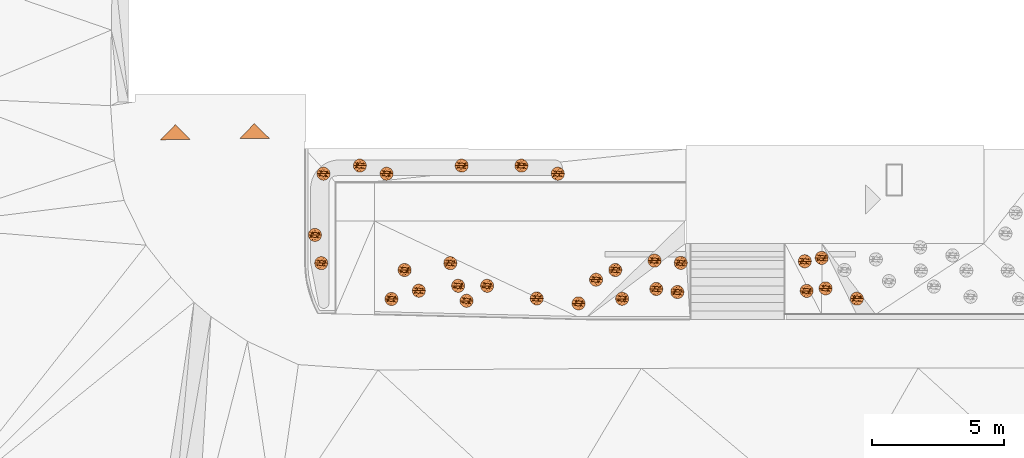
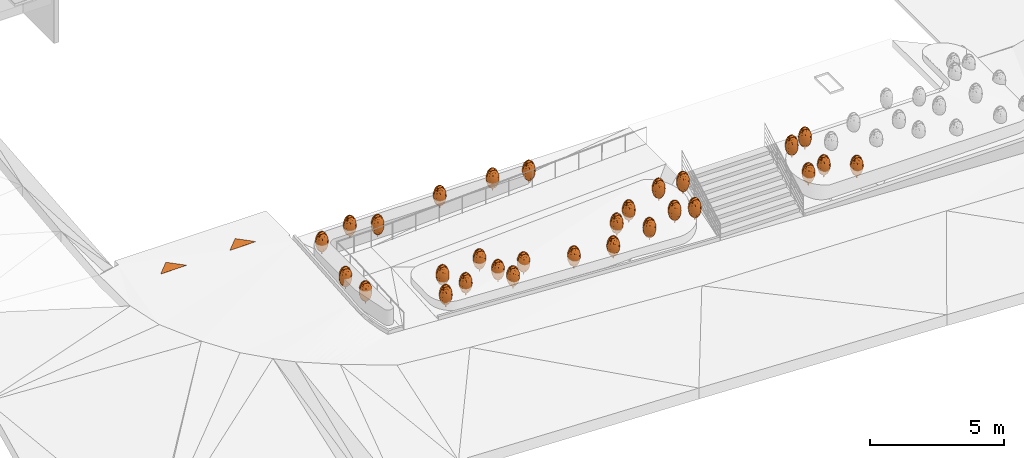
# One storey, part 21 of 23: 31 proxies.
"""IFC2X3 building model written with IfcOpenShell, lengths in metres."""

from ifc_helpers import new_model, entity, si_unit, converted_unit, direction, frame, origin, place, context, subcontext, project, spatial, polyline, outline, extrude, faceted_brep, source, transform, mapped, material, type_object, type_shapes, element, save


model = new_model("IFC2X3")

# Units and contexts
model_context = context("Model", 3, precision=1e-05, world=origin(), true_north=direction((0.7716245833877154, 0.6360782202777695)))
body_context = subcontext(model_context, "Body", "Model", "MODEL_VIEW")
ifc_project = project(units=[si_unit("LENGTHUNIT", "METRE"), converted_unit("PLANEANGLEUNIT", "DEGREE", entity("IfcPlaneAngleMeasure", 0.017453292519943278), si_unit("PLANEANGLEUNIT", "RADIAN"), dimensions=[0, 0, 0, 0, 0, 0, 0]), si_unit("AREAUNIT", "SQUARE_METRE")], contexts=[model_context])

# Site, building, storey
site_placement = place(None, origin())
site = spatial("IfcSite", under=ifc_project, at=site_placement, Name="Default", CompositionType="ELEMENT")
building_placement = place(site_placement, origin())
building = spatial("IfcBuilding", under=site, at=building_placement, Name="<Building Name>", CompositionType="ELEMENT")
storey_placement = place(building_placement, origin())
storey = spatial("IfcBuildingStorey", under=building, at=storey_placement, Name="00 - HAV", CompositionType="ELEMENT", Elevation=0.0)

# Proxies
ifc_material_1 = material(Name="Entrépil")
building_element_proxy_type_1 = type_object("IfcBuildingElementProxyType", Name="011_Entrépil_3D:Hovedentré", PredefinedType="NOTDEFINED", material=ifc_material_1)
shared_shape_1 = source(origin(), body_context, "Body", "SweptSolid", [
    extrude(outline(polyline([(-0.2666666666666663, -0.2666666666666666), (0.5333333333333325, -0.2666666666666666), (-0.2666666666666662, 0.5333333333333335), (-0.2666666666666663, -0.2666666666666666)])), frame((0.0, -0.377123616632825, 0.0), z_axis=(0.0, 0.0, 1.0), x_axis=(-0.7071067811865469, -0.7071067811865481, 0.0)), (0.0, 0.0, 1.0), 0.003),
])
type_shapes(building_element_proxy_type_1, [shared_shape_1])
for number, where, z_axis, x_axis, name in (
    (1, (224.8546036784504, 54.102430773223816, 33.2), (0.0, 0.0, 1.0), (0.999903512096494, 0.013891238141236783, 0.0), "011_Entrépil_3D:Hovedentré"),
    (2, (227.85431421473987, 54.144104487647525, 33.2), (0.0, 0.0, 1.0), (0.999903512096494, 0.013891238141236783, 0.0), "011_Entrépil_3D:Hovedentré"),
):
    element("IfcBuildingElementProxy", number, at=place(storey_placement, frame(where, z_axis=z_axis, x_axis=x_axis)), inside=storey, type_object=building_element_proxy_type_1, material=ifc_material_1, Name=name, ObjectType="011_Entrépil_3D:Hovedentré", context=body_context, shape_type="MappedRepresentation", body=[
        mapped(shared_shape_1, transform((0.0, 0.0, 0.0), scale=1.0)),
    ])
ifc_material_2 = material(Name="<Unnamed>")
building_element_proxy_type_2 = type_object("IfcBuildingElementProxyType", Name="812_Shrub_Solitary:812xxx Amelanchier laevis (Allegheny serviceberry) (Multi-stem), 4m 2", PredefinedType="NOTDEFINED", material=ifc_material_2)
shared_shape_2 = source(origin(), body_context, "Body", "Brep", [
    faceted_brep([(0.01250000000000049, -0.02165063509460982, 0.10249999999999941), (0.017677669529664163, -0.0176776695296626, 0.10249999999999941), (0.021650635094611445, -0.01249999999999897, 0.10249999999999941), (0.0241481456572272, -0.006470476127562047, 0.10249999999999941), (0.025000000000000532, 0.0, 0.10249999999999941), (0.024148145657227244, 0.006470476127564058, 0.10249999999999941), (0.021650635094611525, 0.012500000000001, 0.10249999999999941), (0.017677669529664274, 0.017677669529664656, 0.10249999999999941), (0.012500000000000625, 0.02165063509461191, 0.10249999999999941), (0.0064704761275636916, 0.02414814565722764, 0.10249999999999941), (0.0, 0.025000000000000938, 0.10249999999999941), (-0.006470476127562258, 0.02414814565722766, 0.10249999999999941), (-0.012499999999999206, 0.021650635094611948, 0.10249999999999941), (-0.017677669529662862, 0.017677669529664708, 0.10249999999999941), (-0.02165063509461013, 0.012500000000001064, 0.10249999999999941), (-0.024148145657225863, 0.006470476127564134, 0.10249999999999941), (-0.024999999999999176, 0.0, 0.10249999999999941), (-0.024148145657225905, -0.006470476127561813, 0.10249999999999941), (-0.021650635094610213, -0.012499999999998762, 0.10249999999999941), (-0.01767766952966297, -0.017677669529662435, 0.10249999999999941), (-0.012499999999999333, -0.0216506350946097, 0.10249999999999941), (-0.006470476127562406, -0.024148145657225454, 0.10249999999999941), (0.0, -0.02499999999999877, 0.10249999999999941), (0.0064704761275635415, -0.024148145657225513, 0.10249999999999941), (0.0, 0.025000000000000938, 0.0), (0.0064704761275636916, 0.02414814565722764, 0.0), (0.012500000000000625, 0.02165063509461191, 0.0), (0.017677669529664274, 0.017677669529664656, 0.0), (0.021650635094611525, 0.012500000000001, 0.0), (0.024148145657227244, 0.006470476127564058, 0.0), (0.025000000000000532, 0.0, 0.0), (0.0241481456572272, -0.006470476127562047, 0.0), (0.021650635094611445, -0.01249999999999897, 0.0), (0.017677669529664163, -0.0176776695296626, 0.0), (0.01250000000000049, -0.02165063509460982, 0.0), (0.0064704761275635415, -0.024148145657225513, 0.0), (0.0, -0.02499999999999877, 0.0), (-0.006470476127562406, -0.024148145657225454, 0.0), (-0.012499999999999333, -0.0216506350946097, 0.0), (-0.01767766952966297, -0.017677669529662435, 0.0), (-0.021650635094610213, -0.012499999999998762, 0.0), (-0.024148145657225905, -0.006470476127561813, 0.0), (-0.024999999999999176, 0.0, 0.0), (-0.024148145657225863, 0.006470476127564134, 0.0), (-0.02165063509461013, 0.012500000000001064, 0.0), (-0.017677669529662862, 0.017677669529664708, 0.0), (-0.012499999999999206, 0.021650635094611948, 0.0), (-0.006470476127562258, 0.02414814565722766, 0.0)], [[[0, 1, 2, 3, 4, 5, 6, 7, 8, 9, 10, 11, 12, 13, 14, 15, 16, 17, 18, 19, 20, 21, 22, 23]], [[24, 25, 26, 27, 28, 29, 30, 31, 32, 33, 34, 35, 36, 37, 38, 39, 40, 41, 42, 43, 44, 45, 46, 47]], [[17, 41, 40, 18]], [[39, 19, 18, 40]], [[20, 38, 37, 21]], [[39, 38, 20, 19]], [[21, 37, 36, 22]], [[41, 17, 16, 42]], [[23, 35, 34, 0]], [[33, 1, 0, 34]], [[2, 32, 31, 3]], [[33, 32, 2, 1]], [[3, 31, 30, 4]], [[35, 23, 22, 36]], [[30, 29, 5, 4]], [[8, 26, 25, 9]], [[26, 8, 7, 27]], [[24, 10, 9, 25]], [[5, 29, 28, 6]], [[28, 27, 7, 6]], [[11, 47, 46, 12]], [[45, 13, 12, 46]], [[14, 44, 43, 15]], [[45, 44, 14, 13]], [[15, 43, 42, 16]], [[47, 11, 10, 24]]]),
    faceted_brep([(0.23850803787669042, 0.06991061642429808, 0.5985139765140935), (0.24620193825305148, 0.0, 0.4718583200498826), (0.22939334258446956, 0.07726705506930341, 0.4374676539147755), (0.20614438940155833, 0.12376125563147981, 0.42676055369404), (0.21249588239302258, 0.13170231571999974, 0.550000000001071), (0.1606969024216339, 0.0, 0.20528000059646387), (0.20815678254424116, 0.06833092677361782, 0.3332390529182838), (0.1818434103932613, 0.0, 0.2411912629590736), (0.22955402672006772, 0.0, 0.37176410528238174), (0.21650635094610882, 0.0, 0.32500000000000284), (0.2394973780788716, 0.0, 0.42093854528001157), (-0.04646607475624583, 0.22683739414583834, 0.7196751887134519), (-0.09452961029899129, 0.20157258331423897, 0.7546992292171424), (-0.07216705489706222, 0.17646586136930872, 0.8410868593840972), (0.08550503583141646, 0.0, 0.12713832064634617), (0.08891084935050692, 0.08663704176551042, 0.15940048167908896), (0.11951962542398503, 0.12413953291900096, 0.2239840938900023), (0.20053079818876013, 0.0, 0.28127863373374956), (0.0429519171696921, 0.12823742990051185, 0.17152760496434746), (0.028420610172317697, 0.1873149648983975, 0.2563992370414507), (0.07825571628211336, 0.15560596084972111, 0.22718803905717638), (0.0, 0.0, 0.10000000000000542), (-0.004372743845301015, 0.08574662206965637, 0.12737013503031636), (0.02902322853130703, 0.0, 0.10304273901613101), (0.057653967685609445, 0.0, 0.11212980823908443), (-0.18184341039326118, 0.0, 0.8588087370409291), (-0.1730739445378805, 0.10013384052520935, 0.820111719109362), (-0.22008812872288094, 0.08946742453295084, 0.6900857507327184), (0.053638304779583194, 0.067106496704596, 0.12740365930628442), (-0.17866462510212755, 0.14938268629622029, 0.3863705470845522), (-0.17300950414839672, 0.09642195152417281, 0.275415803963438), (-0.20799024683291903, 0.10007060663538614, 0.37710692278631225), (0.1818434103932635, 0.0, 0.8588087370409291), (0.1915393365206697, 0.11790696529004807, 0.7464444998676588), (0.1707596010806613, 0.06946813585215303, 0.8539567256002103), (0.14896670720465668, 0.11208042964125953, 0.8498331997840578), (0.15051536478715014, 0.17622808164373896, 0.7187473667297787), (0.11219979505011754, 0.0, 0.9521346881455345), (0.1203563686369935, 0.07887752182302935, 0.9179786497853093), (0.08550503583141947, 0.0, 0.9728616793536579), (0.15820107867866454, 0.19181689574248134, 0.503106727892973), (0.17120329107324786, 0.07276259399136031, 0.24936746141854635), (0.14996737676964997, 0.11073733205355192, 0.2501660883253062), (0.13541917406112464, 0.16776818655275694, 0.32220587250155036), (0.170606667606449, 0.13531021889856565, 0.328925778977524), (-0.11334119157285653, 0.15094946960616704, 0.25495352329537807), (-0.14499102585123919, 0.11835688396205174, 0.25167069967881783), (-0.13945550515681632, 0.17086120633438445, 0.3380993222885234), (0.24957703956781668, 0.0, 0.523834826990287), (0.24957703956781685, 0.0, 0.5761651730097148), (0.11219979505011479, 0.0, 0.14786531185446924), (0.24620193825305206, 0.0, 0.6281416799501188), (0.23949737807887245, 0.0, 0.6790614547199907), (-0.13737724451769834, 0.0, 0.17403048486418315), (0.22955402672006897, 0.0, 0.7282358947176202), (0.22120629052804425, 0.06932199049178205, 0.7184922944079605), (-0.20053079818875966, 0.0, 0.8187213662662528), (-0.21650635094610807, 0.0, 0.7749999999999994), (0.21650635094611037, 0.0, 0.7749999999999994), (-0.05765396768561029, 0.0, 0.9878701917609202), (-0.0516096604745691, 0.08560533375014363, 0.9624639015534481), (-0.08578183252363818, 0.1210822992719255, 0.9121560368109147), (0.20053079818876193, 0.0, 0.8187213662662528), (-0.24957703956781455, 0.0, 0.5761651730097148), (-0.23797372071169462, 0.07584140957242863, 0.530564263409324), (-0.24957703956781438, 0.0, 0.523834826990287), (0.13737724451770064, 0.0, 0.17403048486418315), (0.13737724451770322, 0.0, 0.9259695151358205), (-0.026479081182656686, 0.17855758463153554, 0.8613326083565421), (0.02483314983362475, 0.2186065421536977, 0.7636964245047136), (-0.05739184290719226, 0.24332319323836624, 0.5500000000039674), (-0.0033896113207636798, 0.244481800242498, 0.6438274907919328), (0.08896846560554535, 0.07373557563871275, 0.9490469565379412), (0.05765396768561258, 0.0, 0.9878701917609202), (-0.20416814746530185, 0.14427531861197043, 0.5500000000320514), (2.568366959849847e-09, 0.10077345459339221, 0.9618213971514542), (0.0, 0.0, 1.0), (0.02902322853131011, 0.0, 0.9969572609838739), (0.16069690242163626, 0.0, 0.8947199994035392), (-0.05765396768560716, 0.0, 0.11212980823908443), (-0.08550503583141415, 0.0, 0.12713832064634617), (-0.08578183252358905, 0.12108229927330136, 0.18784396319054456), (-0.08550503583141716, 0.0, 0.9728616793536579), (-0.12066945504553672, 0.08428787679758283, 0.9137355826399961), (-0.11219979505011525, 0.0, 0.9521346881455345), (-0.051609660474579, 0.08560533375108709, 0.1375360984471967), (-0.20053079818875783, 0.0, 0.28127863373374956), (-0.2308466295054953, 0.058309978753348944, 0.41280055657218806), (-0.023374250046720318, 0.13205871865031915, 0.17022926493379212), (-0.181843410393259, 0.0, 0.2411912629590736), (-0.1606969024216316, 0.0, 0.20528000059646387), (0.08658519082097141, 0.18332310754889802, 0.8132904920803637), (0.026110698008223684, 0.15717904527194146, 0.8967651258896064), (0.08246489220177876, 0.13964564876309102, 0.8924668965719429), (-0.12066945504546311, 0.0842878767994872, 0.18626441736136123), (0.05095144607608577, 0.09001895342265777, 0.9596751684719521), (-0.2165063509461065, 0.0, 0.32500000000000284), (-0.23781016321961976, 0.052988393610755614, 0.6508410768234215), (-0.22955402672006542, 0.0, 0.37176410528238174), (-0.23949737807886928, 0.0, 0.42093854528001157), (-0.24620193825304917, 0.0, 0.4718583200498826), (-0.08031082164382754, 0.21357520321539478, 0.3661195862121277), (-0.012349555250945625, 0.23447128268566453, 0.39546493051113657), (0.20939264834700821, 0.12324851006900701, 0.6559483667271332), (-0.14472249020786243, 0.1183987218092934, 0.848697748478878), (-0.13737724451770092, 0.0, 0.9259695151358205), (0.11730355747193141, 0.14275963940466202, 0.8531253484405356), (0.1840833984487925, 0.1628436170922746, 0.6323931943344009), (-0.17594791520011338, 0.1759340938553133, 0.5062957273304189), (-0.18270938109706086, 0.15312253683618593, 0.6855481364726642), (-0.14118269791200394, 0.20615647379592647, 0.5352714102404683), (-0.02902322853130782, 0.0, 0.9969572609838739), (-0.14808527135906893, 0.1909384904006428, 0.4345577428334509), (-0.11094403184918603, 0.2171588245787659, 0.4508615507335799), (-0.02647908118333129, 0.17855758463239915, 0.23866739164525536), (-0.23949737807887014, 0.0, 0.6790614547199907), (-0.24620193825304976, 0.0, 0.6281416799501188), (-0.22955402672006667, 0.0, 0.7282358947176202), (-0.16069690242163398, 0.0, 0.8947199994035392), (-0.029023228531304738, 0.0, 0.10304273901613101), (-0.13945550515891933, 0.17086120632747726, 0.7619006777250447), (-0.11219979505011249, 0.0, 0.14786531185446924), (-0.07181989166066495, 0.17685086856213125, 0.2593923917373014), (-0.11334119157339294, 0.1509494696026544, 0.845046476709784), (0.1109116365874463, 0.22078270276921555, 0.481372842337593), (0.12522531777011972, 0.2139791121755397, 0.6078122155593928), (0.09324044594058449, 0.21198940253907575, 0.7194938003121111), (0.05067237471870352, 0.23586133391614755, 0.66805779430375), (0.061434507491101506, 0.23474314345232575, 0.44167860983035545), (0.052992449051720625, 0.21379342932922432, 0.3371415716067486), (-0.10157212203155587, 0.22830956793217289, 0.5636900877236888), (-0.12347067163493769, 0.20953070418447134, 0.6542117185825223), (0.09763635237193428, 0.20402573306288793, 0.35831358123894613), (-0.01035446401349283, 0.24963845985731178, 0.5345761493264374), (0.03671083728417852, 0.24727484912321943, 0.554917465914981), (0.0836342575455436, 0.23531808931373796, 0.5705789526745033), (-0.23850803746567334, -0.06991061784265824, 0.5985139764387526), (-0.22939334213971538, -0.07726705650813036, 0.43746765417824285), (-0.20614438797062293, -0.12376125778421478, 0.4267605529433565), (-0.212495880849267, -0.1317023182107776, 0.5500000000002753), (-0.20815678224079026, -0.06833092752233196, 0.33323905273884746), (0.04646608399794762, -0.22683739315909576, 0.7196751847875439), (0.0945296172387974, -0.20157258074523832, 0.7546992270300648), (0.07216706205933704, -0.17646585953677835, 0.8410868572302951), (-0.08891084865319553, -0.08663704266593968, 0.1594004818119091), (-0.11951962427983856, -0.12413953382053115, 0.22398409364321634), (-0.04295191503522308, -0.12823743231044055, 0.17152760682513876), (-0.028420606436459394, -0.1873149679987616, 0.25639924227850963), (-0.07825571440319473, -0.1556059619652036, 0.22718803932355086), (0.004372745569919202, -0.08574662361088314, 0.12737013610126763), (0.1730739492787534, -0.10013384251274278, 0.8201117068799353), (0.22008813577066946, -0.08946741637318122, 0.690085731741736), (-0.05363830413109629, -0.06710649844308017, 0.12740365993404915), (0.17866463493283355, -0.14938268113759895, 0.3863705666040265), (0.17300950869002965, -0.09642195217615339, 0.27541581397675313), (0.207990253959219, -0.10007060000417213, 0.3771069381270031), (-0.19153933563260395, -0.1179069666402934, 0.746444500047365), (-0.1707596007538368, -0.06946813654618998, 0.853956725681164), (-0.14896670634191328, -0.11208043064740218, 0.8498331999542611), (-0.15051536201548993, -0.17622808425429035, 0.7187473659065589), (-0.12035636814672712, -0.07887752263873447, 0.9179786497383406), (-0.15820107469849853, -0.19181689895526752, 0.5031067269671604), (-0.1712032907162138, -0.07276259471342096, 0.2493674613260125), (-0.1499673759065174, -0.11073733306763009, 0.2501660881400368), (-0.13541917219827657, -0.16776818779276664, 0.32220587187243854), (-0.1706066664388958, -0.13531022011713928, 0.3289257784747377), (0.11334119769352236, -0.1509494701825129, 0.2549535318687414), (0.14499103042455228, -0.11835688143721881, 0.2516707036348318), (0.13945551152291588, -0.17086120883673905, 0.3380993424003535), (-0.22120629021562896, -0.06932199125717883, 0.7184922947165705), (0.05160966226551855, -0.08560533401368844, 0.9624639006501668), (0.08578183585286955, -0.12108229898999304, 0.9121560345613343), (0.23797372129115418, -0.07584140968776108, 0.5305642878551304), (0.026479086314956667, -0.17855758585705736, 0.8613326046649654), (-0.024833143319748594, -0.21860654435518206, 0.7636964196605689), (0.05739185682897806, -0.2433231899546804, 0.5499999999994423), (0.0033896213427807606, -0.24448180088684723, 0.643827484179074), (-0.08896846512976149, -0.07373557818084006, 0.9490469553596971), (0.20416816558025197, -0.144275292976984, 0.5499999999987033), (0.0, -0.1007734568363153, 0.9618213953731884), (0.08578183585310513, -0.12108229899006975, 0.18784396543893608), (0.12066945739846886, -0.08428787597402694, 0.9137355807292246), (0.05160966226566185, -0.08560533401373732, 0.13753609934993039), (0.23084663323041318, -0.05830997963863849, 0.4128005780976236), (0.023374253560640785, -0.1320587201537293, 0.17022926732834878), (-0.0865851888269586, -0.183323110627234, 0.8132904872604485), (-0.0261106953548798, -0.15717904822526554, 0.8967651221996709), (-0.08246489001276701, -0.13964565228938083, 0.8924668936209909), (0.12066945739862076, -0.08428787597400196, 0.1862644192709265), (-0.050951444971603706, -0.09001895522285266, 0.9596751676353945), (0.23781016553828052, -0.05298839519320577, 0.6508410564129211), (0.08031082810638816, -0.2135752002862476, 0.3661195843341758), (0.012349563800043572, -0.2344712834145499, 0.3954649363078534), (-0.20939264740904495, -0.12324851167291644, 0.6559483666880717), (0.1447224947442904, -0.11839871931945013, 0.8486977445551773), (-0.1173035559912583, -0.14275964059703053, 0.8531253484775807), (-0.18408339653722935, -0.16284361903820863, 0.6323931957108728), (0.17594794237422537, -0.1759340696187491, 0.5062957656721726), (0.18270939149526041, -0.1531225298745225, 0.6855481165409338), (0.1411827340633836, -0.2061564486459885, 0.5352713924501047), (0.14808532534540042, -0.19093844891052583, 0.4345577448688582), (0.11094408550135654, -0.2171587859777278, 0.4508614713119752), (0.026479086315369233, -0.17855758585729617, 0.23866739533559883), (0.13945551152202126, -0.17086120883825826, 0.7619006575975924), (0.071819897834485, -0.17685086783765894, 0.25939239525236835), (0.11334119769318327, -0.15094947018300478, 0.8450464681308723), (-0.11091162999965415, -0.22078270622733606, 0.4813728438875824), (-0.12522531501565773, -0.21397911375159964, 0.6078122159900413), (-0.09324044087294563, -0.21198940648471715, 0.7194937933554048), (-0.05067236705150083, -0.2358613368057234, 0.6680577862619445), (-0.06143449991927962, -0.2347431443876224, 0.4416786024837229), (-0.05299244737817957, -0.21379342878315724, 0.3371415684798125), (0.10157214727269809, -0.2283095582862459, 0.5636900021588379), (0.1234706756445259, -0.2095307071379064, 0.6542116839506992), (-0.09763634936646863, -0.20402573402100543, 0.35831357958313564), (0.010354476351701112, -0.24963845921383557, 0.5345761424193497), (-0.03671082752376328, -0.24727485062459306, 0.5549174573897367), (-0.08363425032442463, -0.23531809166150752, 0.5705789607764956)], [[[0, 1, 2]], [[2, 3, 4]], [[5, 6, 7]], [[2, 8, 9]], [[2, 1, 10]], [[11, 12, 13]], [[14, 15, 16]], [[8, 2, 10]], [[6, 17, 7]], [[18, 19, 20]], [[21, 22, 23]], [[15, 14, 24]], [[25, 26, 27]], [[28, 22, 18]], [[6, 2, 9]], [[29, 30, 31]], [[32, 33, 34]], [[35, 33, 36]], [[37, 38, 39]], [[4, 3, 40]], [[5, 41, 6]], [[42, 43, 44]], [[45, 46, 47]], [[35, 38, 37]], [[48, 1, 0]], [[0, 49, 48]], [[41, 42, 44]], [[16, 42, 50]], [[50, 14, 16]], [[51, 0, 52]], [[30, 46, 53]], [[0, 54, 52]], [[54, 0, 55]], [[56, 27, 57]], [[54, 55, 58]], [[59, 60, 61]], [[58, 55, 62]], [[62, 55, 32]], [[63, 64, 65]], [[66, 41, 5]], [[24, 23, 28]], [[34, 35, 67]], [[49, 0, 51]], [[11, 68, 69]], [[37, 67, 35]], [[70, 11, 71]], [[72, 73, 39]], [[64, 74, 31]], [[75, 76, 77]], [[78, 34, 67]], [[79, 80, 81]], [[82, 83, 84]], [[81, 85, 79]], [[86, 87, 31]], [[64, 31, 87]], [[22, 85, 88]], [[89, 30, 90]], [[91, 92, 93]], [[32, 55, 33]], [[80, 94, 81]], [[75, 95, 92]], [[30, 89, 31]], [[96, 87, 86]], [[97, 64, 63]], [[27, 64, 97]], [[96, 98, 87]], [[87, 99, 64]], [[47, 30, 29]], [[99, 100, 64]], [[101, 70, 102]], [[15, 20, 16]], [[99, 87, 98]], [[30, 53, 90]], [[86, 31, 89]], [[103, 0, 4]], [[100, 65, 64]], [[83, 104, 84]], [[105, 84, 104]], [[38, 106, 93]], [[33, 107, 36]], [[83, 82, 61]], [[61, 82, 59]], [[108, 109, 110]], [[60, 59, 111]], [[26, 109, 27]], [[112, 110, 113]], [[102, 19, 114]], [[77, 95, 75]], [[115, 97, 116]], [[57, 97, 117]], [[75, 111, 76]], [[3, 2, 6]], [[0, 2, 4]], [[118, 26, 25]], [[64, 27, 74]], [[115, 117, 97]], [[27, 97, 57]], [[25, 27, 56]], [[44, 43, 40]], [[105, 26, 118]], [[116, 97, 63]], [[6, 9, 17]], [[68, 92, 69]], [[21, 119, 22]], [[109, 26, 120]], [[4, 107, 103]], [[94, 80, 121]], [[81, 45, 122]], [[77, 73, 95]], [[60, 68, 61]], [[66, 50, 42]], [[6, 41, 44]], [[32, 34, 78]], [[33, 35, 34]], [[85, 119, 79]], [[18, 22, 88]], [[61, 123, 83]], [[83, 123, 104]], [[121, 53, 46]], [[45, 81, 94]], [[72, 95, 73]], [[75, 92, 68]], [[28, 15, 24]], [[20, 15, 18]], [[106, 38, 35]], [[72, 38, 93]], [[6, 44, 3]], [[40, 3, 44]], [[40, 124, 125]], [[126, 106, 36]], [[111, 75, 60]], [[68, 60, 75]], [[88, 81, 114]], [[22, 119, 85]], [[95, 93, 92]], [[93, 106, 91]], [[127, 69, 126]], [[71, 69, 127]], [[125, 126, 36]], [[102, 128, 129]], [[130, 110, 131]], [[12, 120, 123]], [[18, 88, 19]], [[132, 16, 20]], [[81, 122, 114]], [[20, 19, 129]], [[71, 133, 70]], [[134, 135, 128]], [[12, 131, 120]], [[27, 109, 74]], [[131, 109, 120]], [[110, 130, 113]], [[13, 12, 123]], [[104, 120, 26]], [[123, 61, 13]], [[70, 130, 11]], [[131, 12, 11]], [[109, 131, 110]], [[61, 68, 13]], [[11, 13, 68]], [[46, 45, 94]], [[45, 47, 101]], [[112, 113, 47]], [[114, 101, 102]], [[45, 101, 122]], [[101, 114, 122]], [[38, 72, 39]], [[95, 72, 93]], [[36, 106, 35]], [[91, 106, 126]], [[126, 69, 91]], [[92, 91, 69]], [[33, 103, 107]], [[36, 107, 125]], [[120, 104, 123]], [[105, 104, 26]], [[46, 94, 121]], [[47, 46, 30]], [[42, 41, 66]], [[43, 16, 132]], [[16, 43, 42]], [[43, 132, 124]], [[40, 43, 124]], [[126, 125, 135]], [[128, 124, 132]], [[135, 125, 124]], [[129, 128, 132]], [[133, 128, 102]], [[20, 129, 132]], [[102, 129, 19]], [[128, 135, 124]], [[135, 134, 127]], [[31, 74, 29]], [[112, 108, 110]], [[11, 130, 131]], [[113, 70, 101]], [[70, 113, 130]], [[47, 113, 101]], [[47, 29, 112]], [[108, 29, 74]], [[29, 108, 112]], [[109, 108, 74]], [[4, 40, 107]], [[125, 107, 40]], [[22, 28, 23]], [[15, 28, 18]], [[81, 88, 85]], [[88, 114, 19]], [[33, 55, 103]], [[0, 103, 55]], [[135, 127, 126]], [[71, 127, 134]], [[71, 134, 133]], [[69, 71, 11]], [[128, 133, 134]], [[102, 70, 133]], [[136, 100, 137]], [[137, 138, 139]], [[90, 140, 89]], [[137, 98, 96]], [[137, 100, 99]], [[141, 142, 143]], [[80, 144, 145]], [[98, 137, 99]], [[140, 86, 89]], [[146, 147, 148]], [[21, 149, 119]], [[144, 80, 79]], [[32, 150, 151]], [[152, 149, 146]], [[140, 137, 96]], [[153, 154, 155]], [[25, 156, 157]], [[158, 156, 159]], [[84, 160, 82]], [[139, 138, 161]], [[90, 162, 140]], [[163, 164, 165]], [[166, 167, 168]], [[158, 160, 84]], [[65, 100, 136]], [[136, 63, 65]], [[162, 163, 165]], [[145, 163, 121]], [[121, 80, 145]], [[116, 136, 115]], [[154, 167, 66]], [[136, 117, 115]], [[117, 136, 169]], [[62, 151, 58]], [[117, 169, 57]], [[73, 170, 171]], [[57, 169, 56]], [[56, 169, 25]], [[49, 172, 48]], [[53, 162, 90]], [[79, 119, 152]], [[157, 158, 105]], [[63, 136, 116]], [[141, 173, 174]], [[84, 105, 158]], [[175, 141, 176]], [[177, 59, 82]], [[172, 178, 155]], [[179, 76, 111]], [[118, 157, 105]], [[24, 14, 180]], [[39, 181, 37]], [[180, 182, 24]], [[17, 183, 155]], [[172, 155, 183]], [[149, 182, 184]], [[7, 154, 5]], [[185, 186, 187]], [[25, 169, 156]], [[14, 188, 180]], [[179, 189, 186]], [[7, 155, 154]], [[9, 183, 17]], [[190, 172, 49]], [[151, 172, 190]], [[9, 8, 183]], [[183, 10, 172]], [[168, 154, 153]], [[10, 1, 172]], [[191, 175, 192]], [[144, 148, 145]], [[10, 183, 8]], [[154, 66, 5]], [[17, 155, 7]], [[193, 136, 139]], [[1, 48, 172]], [[181, 194, 37]], [[67, 37, 194]], [[160, 195, 187]], [[156, 196, 159]], [[181, 39, 171]], [[171, 39, 73]], [[197, 198, 199]], [[170, 73, 77]], [[150, 198, 151]], [[200, 199, 201]], [[192, 147, 202]], [[111, 189, 179]], [[190, 51, 52]], [[58, 190, 54]], [[179, 77, 76]], [[138, 137, 140]], [[136, 137, 139]], [[78, 150, 32]], [[172, 151, 178]], [[52, 54, 190]], [[151, 190, 58]], [[32, 151, 62]], [[165, 164, 161]], [[67, 150, 78]], [[51, 190, 49]], [[140, 96, 86]], [[173, 186, 174]], [[21, 23, 149]], [[198, 150, 203]], [[139, 196, 193]], [[188, 14, 50]], [[180, 166, 204]], [[111, 59, 189]], [[170, 173, 171]], [[53, 121, 163]], [[140, 162, 165]], [[25, 157, 118]], [[156, 158, 157]], [[182, 23, 24]], [[146, 149, 184]], [[171, 205, 181]], [[181, 205, 194]], [[50, 66, 167]], [[166, 180, 188]], [[177, 189, 59]], [[179, 186, 173]], [[152, 144, 79]], [[148, 144, 146]], [[195, 160, 158]], [[177, 160, 187]], [[140, 165, 138]], [[161, 138, 165]], [[161, 206, 207]], [[208, 195, 159]], [[77, 179, 170]], [[173, 170, 179]], [[184, 180, 202]], [[149, 23, 182]], [[189, 187, 186]], [[187, 195, 185]], [[209, 174, 208]], [[176, 174, 209]], [[207, 208, 159]], [[192, 210, 211]], [[212, 199, 213]], [[142, 203, 205]], [[146, 184, 147]], [[214, 145, 148]], [[180, 204, 202]], [[148, 147, 211]], [[176, 215, 175]], [[216, 217, 210]], [[142, 213, 203]], [[151, 198, 178]], [[213, 198, 203]], [[199, 212, 201]], [[143, 142, 205]], [[194, 203, 150]], [[205, 171, 143]], [[175, 212, 141]], [[213, 142, 141]], [[198, 213, 199]], [[171, 173, 143]], [[141, 143, 173]], [[167, 166, 188]], [[166, 168, 191]], [[200, 201, 168]], [[202, 191, 192]], [[166, 191, 204]], [[191, 202, 204]], [[160, 177, 82]], [[189, 177, 187]], [[159, 195, 158]], [[185, 195, 208]], [[208, 174, 185]], [[186, 185, 174]], [[156, 193, 196]], [[159, 196, 207]], [[203, 194, 205]], [[67, 194, 150]], [[167, 188, 50]], [[168, 167, 154]], [[163, 162, 53]], [[164, 145, 214]], [[145, 164, 163]], [[164, 214, 206]], [[161, 164, 206]], [[208, 207, 217]], [[210, 206, 214]], [[217, 207, 206]], [[211, 210, 214]], [[215, 210, 192]], [[148, 211, 214]], [[192, 211, 147]], [[210, 217, 206]], [[217, 216, 209]], [[155, 178, 153]], [[200, 197, 199]], [[141, 212, 213]], [[201, 175, 191]], [[175, 201, 212]], [[168, 201, 191]], [[168, 153, 200]], [[197, 153, 178]], [[153, 197, 200]], [[198, 197, 178]], [[139, 161, 196]], [[207, 196, 161]], [[149, 152, 119]], [[144, 152, 146]], [[180, 184, 182]], [[184, 202, 147]], [[156, 169, 193]], [[136, 193, 169]], [[217, 209, 208]], [[176, 209, 216]], [[176, 216, 215]], [[174, 176, 141]], [[210, 215, 216]], [[192, 175, 215]]]),
])
type_shapes(building_element_proxy_type_2, [shared_shape_2])
for number, where, name in (
    (3, (236.69544378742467, 47.986279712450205, 32.22795928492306), "812_Shrub_Solitary:812xxx Amelanchier laevis (Allegheny serviceberry) (Multi-stem), 4m 2"),
    (4, (235.59544378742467, 47.986279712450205, 32.265717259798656), "812_Shrub_Solitary:812xxx Amelanchier laevis (Allegheny serviceberry) (Multi-stem), 4m 2"),
    (5, (241.56294378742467, 48.58627971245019, 32.524700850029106), "812_Shrub_Solitary:812xxx Amelanchier laevis (Allegheny serviceberry) (Multi-stem), 4m 2"),
    (6, (240.16574993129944, 47.31818112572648, 32.15104951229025), "812_Shrub_Solitary:812xxx Amelanchier laevis (Allegheny serviceberry) (Multi-stem), 4m 2"),
    (7, (248.82831554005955, 47.793162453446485, 32.14742755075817), "812_Shrub_Solitary:812xxx Amelanchier laevis (Allegheny serviceberry) (Multi-stem), 4m 2"),
    (8, (243.1186700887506, 47.865713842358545, 32.396330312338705), "812_Shrub_Solitary:812xxx Amelanchier laevis (Allegheny serviceberry) (Multi-stem), 4m 2"),
    (9, (241.822787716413, 47.494517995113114, 32.29247204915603), "812_Shrub_Solitary:812xxx Amelanchier laevis (Allegheny serviceberry) (Multi-stem), 4m 2"),
    (10, (238.5808667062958, 47.50541450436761, 32.12893521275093), "812_Shrub_Solitary:812xxx Amelanchier laevis (Allegheny serviceberry) (Multi-stem), 4m 2"),
    (11, (234.1016507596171, 47.799633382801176, 32.30367653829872), "812_Shrub_Solitary:812xxx Amelanchier laevis (Allegheny serviceberry) (Multi-stem), 4m 2"),
    (12, (233.56294378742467, 48.58627971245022, 32.37828918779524), "812_Shrub_Solitary:812xxx Amelanchier laevis (Allegheny serviceberry) (Multi-stem), 4m 2"),
    (13, (235.2970179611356, 48.845098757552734, 32.33723113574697), "812_Shrub_Solitary:812xxx Amelanchier laevis (Allegheny serviceberry) (Multi-stem), 4m 2"),
    (14, (240.83215184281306, 48.21737950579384, 32.400885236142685), "812_Shrub_Solitary:812xxx Amelanchier laevis (Allegheny serviceberry) (Multi-stem), 4m 2"),
    (15, (244.04903237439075, 48.85719730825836, 32.788388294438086), "812_Shrub_Solitary:812xxx Amelanchier laevis (Allegheny serviceberry) (Multi-stem), 4m 2"),
    (16, (243.05362462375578, 48.94216421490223, 32.77016537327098), "812_Shrub_Solitary:812xxx Amelanchier laevis (Allegheny serviceberry) (Multi-stem), 4m 2"),
    (17, (249.39918318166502, 49.0450073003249, 32.81342594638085), "812_Shrub_Solitary:812xxx Amelanchier laevis (Allegheny serviceberry) (Multi-stem), 4m 2"),
    (18, (249.5447165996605, 47.89021149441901, 32.202106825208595), "812_Shrub_Solitary:812xxx Amelanchier laevis (Allegheny serviceberry) (Multi-stem), 4m 2"),
    (19, (250.73457165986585, 47.497864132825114, 31.994615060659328), "812_Shrub_Solitary:812xxx Amelanchier laevis (Allegheny serviceberry) (Multi-stem), 4m 2"),
    (20, (248.75715664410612, 48.91782493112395, 32.74608268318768), "812_Shrub_Solitary:812xxx Amelanchier laevis (Allegheny serviceberry) (Multi-stem), 4m 2"),
    (21, (243.91911895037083, 47.75005200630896, 32.30942052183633), "812_Shrub_Solitary:812xxx Amelanchier laevis (Allegheny serviceberry) (Multi-stem), 4m 2"),
    (22, (235.91411157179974, 47.41815844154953, 32.214247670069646), "812_Shrub_Solitary:812xxx Amelanchier laevis (Allegheny serviceberry) (Multi-stem), 4m 2"),
    (23, (233.06292444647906, 47.48626230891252, 32.316974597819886), "812_Shrub_Solitary:812xxx Amelanchier laevis (Allegheny serviceberry) (Multi-stem), 4m 2"),
    (24, (230.3970179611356, 48.845098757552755, 32.595052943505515), "812_Shrub_Solitary:812xxx Amelanchier laevis (Allegheny serviceberry) (Multi-stem), 4m 2"),
    (25, (230.15798709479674, 49.91881391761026, 32.6849249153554), "812_Shrub_Solitary:812xxx Amelanchier laevis (Allegheny serviceberry) (Multi-stem), 4m 2"),
    (26, (230.48305079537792, 52.24222020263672, 32.744138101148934), "812_Shrub_Solitary:812xxx Amelanchier laevis (Allegheny serviceberry) (Multi-stem), 4m 2"),
    (27, (231.86315234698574, 52.549458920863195, 32.81731945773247), "812_Shrub_Solitary:812xxx Amelanchier laevis (Allegheny serviceberry) (Multi-stem), 4m 2"),
    (28, (235.7281523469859, 52.54945892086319, 32.817833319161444), "812_Shrub_Solitary:812xxx Amelanchier laevis (Allegheny serviceberry) (Multi-stem), 4m 2"),
    (29, (237.9972749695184, 52.549458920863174, 32.818135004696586), "812_Shrub_Solitary:812xxx Amelanchier laevis (Allegheny serviceberry) (Multi-stem), 4m 2"),
    (30, (239.3781523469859, 52.24222204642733, 32.87345176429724), "812_Shrub_Solitary:812xxx Amelanchier laevis (Allegheny serviceberry) (Multi-stem), 4m 2"),
    (31, (232.87815234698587, 52.24222204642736, 32.68216443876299), "812_Shrub_Solitary:812xxx Amelanchier laevis (Allegheny serviceberry) (Multi-stem), 4m 2"),
):
    element("IfcBuildingElementProxy", number, at=place(storey_placement, frame(where)), inside=storey, type_object=building_element_proxy_type_2, material=ifc_material_2, Name=name, ObjectType="812_Shrub_Solitary:812xxx Amelanchier laevis (Allegheny serviceberry) (Multi-stem), 4m 2", context=body_context, shape_type="MappedRepresentation", body=[
        mapped(shared_shape_2, transform((0.0, 0.0, 0.0), scale=1.0)),
    ])

save(model, "model.ifc")
